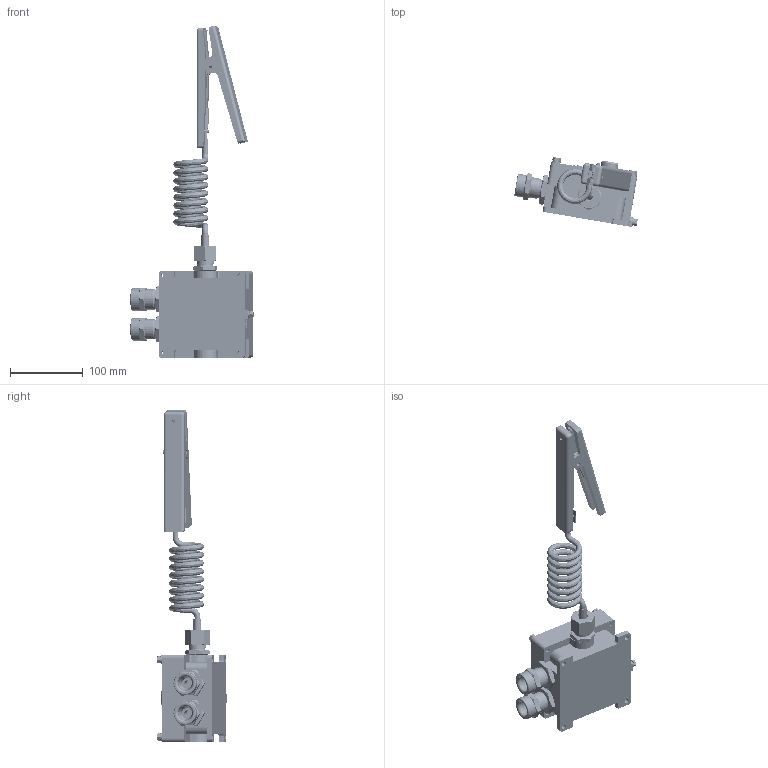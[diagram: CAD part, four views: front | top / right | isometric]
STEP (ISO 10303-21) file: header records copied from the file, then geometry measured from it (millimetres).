
FILE_DESCRIPTION(('STEP AP214'), '1');
FILE_NAME('ÓÇÀ-Ì. Ñïèðàëü è Çàæèì ïëàñòèêîâûé_1', '', ('UNSPECIFIED'), ('UNSPECIFIED'), 'ASCON STEP Converter 1.6', 'ASCON Math Kernel', '');
FILE_SCHEMA(('AUTOMOTIVE_DESIGN { 1 0 10303 214 3 1 1}'));
Length unit declared in the file: millimetre
Products named in the file (57): СЕНС.713341.047; СЕНС.716341.001; СЕНС.713161.077; СЕНС.421331.007; СЕНС.753713.009; СЕНС.741124.497; СЕНС.753651.012; СЕНС.713141.256; СЕНС.741124.863; СЕНС.426469.048СБ; СЕНС.741124.842; СЕНС.711212.007; СЕНС.713121.024; СЕНС.713321.009; СЕНС.741124.841; СЕНС.713552.007; СЕНС.754177.041; СЕНС.711141.350; СЕНС.687282.101СБ; Д12С1102; Д12С1103; Д12С1104; Д12С1101; СЕНС.741468.005; СЕНС.713161.059; СЕНС.301536.038СБ; СЕНС.714561.001; СЕНС.754177.023; СЕНС.754140.013; СЕНС.713141.003; СЕНС.754342.300
Assembly tree (94 placements, depth 4):
  (unnamed)
    (unnamed)
    СЕНС.713341.047
    СЕНС.716341.001  x2
    СЕНС.713161.077
    СЕНС.421331.007
      СЕНС.753713.009
      СЕНС.741124.497  x2
      СЕНС.753651.012
      (unnamed)
      СЕНС.753713.009
    СЕНС.713141.256
    СЕНС.741124.863
    (unnamed)  x2
    СЕНС.426469.048СБ
      СЕНС.741124.842
      СЕНС.711212.007
      СЕНС.713121.024
      СЕНС.713321.009
      (unnamed)
      СЕНС.741124.841
      (unnamed)  x4
      (unnamed)  x4
      (unnamed)  x2
      (unnamed)
      (unnamed)
      (unnamed)  x4
      СЕНС.713552.007  x2
      (unnamed)  x2
      СЕНС.754177.041  x2
      СЕНС.711141.350  x2
      СЕНС.687282.101СБ
        Д12С1102
        Д12С1103
        Д12С1104
        (unnamed)  x3
        (unnamed)  x3
        (unnamed)
        (unnamed)  x2
      (unnamed)  x6
      (unnamed)
      (unnamed)  x2
      (unnamed)
      (unnamed)  x2
      (unnamed)  x2
      (unnamed)
      Д12С1101
      (unnamed)  x2
      СЕНС.741468.005
      (unnamed)  x2
      СЕНС.713161.059  x2
      СЕНС.301536.038СБ
        СЕНС.714561.001
        (unnamed)
        СЕНС.754177.023
        СЕНС.754140.013
        СЕНС.713141.003
      СЕНС.754342.300
      (unnamed)  x4
Bounding box: 169.41 x 95.72 x 455.39 mm (x, y, z)
Volume: 828688.4 mm3; surface area: 290898.7 mm2
Topology: 138 solids, 138 shells, 14980 faces, 42274 edges, 28100 vertices
Faces by surface type: cylinder 8715, plane 5833, cone 186, extrusion 163, torus 54, sphere 20, bspline 8, revolution 1
Full cylindrical faces by diameter (mm): 2 x6, 2.387 x3, 2.4 x4, 2.459 x3, 2.5 x6, 2.9 x2, 3 x16, 3.141 x1, 3.2 x10, 3.242 x2, 3.502 x1, 4 x3, 4.019 x1, 4.3 x2, 4.5 x7, 4.773 x4, 5 x7, 5.3 x2, 5.5 x6, 5.6 x2, 6 x4, 6.4 x4, 6.5 x10, 8 x6, 8.2 x2, 9 x2, 9.5 x1, 10 x6, 11 x1, 12 x5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
Entity records: 502913 total; most frequent: CARTESIAN_POINT 97835, DIRECTION 87432, ORIENTED_EDGE 82470, EDGE_CURVE 41235, AXIS2_PLACEMENT_3D 32011, VERTEX_POINT 27599, VECTOR 23409, LINE 23246
